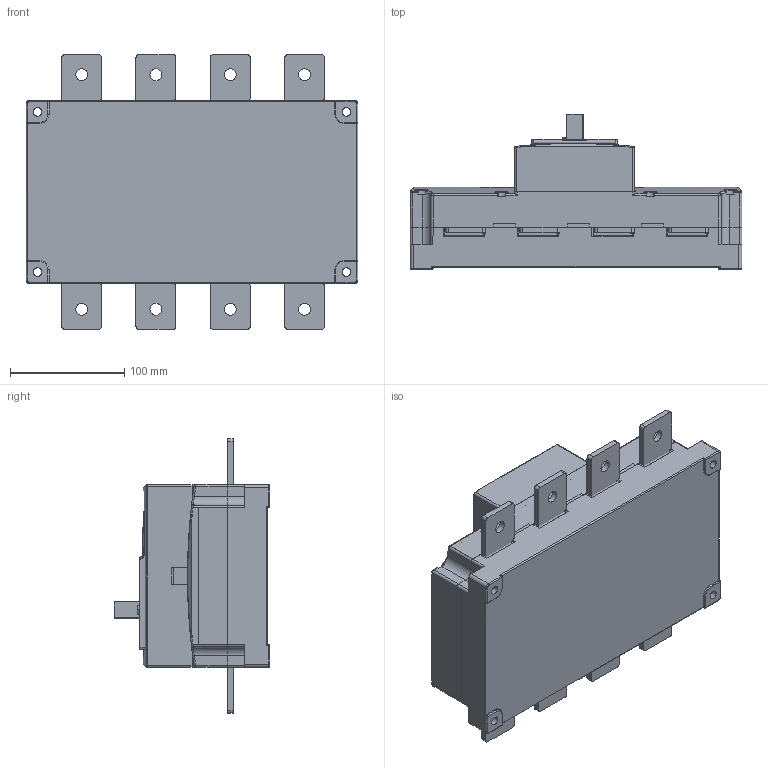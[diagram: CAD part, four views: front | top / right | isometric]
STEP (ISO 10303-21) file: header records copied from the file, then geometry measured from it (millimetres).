
FILE_DESCRIPTION((''),'2;1');
FILE_NAME('NH40-400-4_ASM','2018-05-15T',('zhuanghy'),(''),'PRO/ENGINEER BY PARAMETRIC TECHNOLOGY CORPORATION, 2008380','PRO/ENGINEER BY PARAMETRIC TECHNOLOGY CORPORATION, 2008380','');
FILE_SCHEMA(('CONFIG_CONTROL_DESIGN'));
Length unit declared in the file: millimetre
Products named in the file (7): PRT0049; PRT0050; PRT0051; PRT0052; PRT0053; ASM0011_ASM; NH40-400-4_ASM
Assembly tree (13 placements, depth 3):
  NH40-400-4_ASM
    ASM0011_ASM
      PRT0049
      PRT0050
      PRT0051
      PRT0052
      PRT0053  x8
Bounding box: 290 x 136 x 240 mm (x, y, z)
Volume: 4244659.5 mm3; surface area: 433159 mm2
Topology: 12 solids, 13 shells, 1088 faces, 2838 edges, 1781 vertices
Faces by surface type: cylinder 451, plane 401, bspline 106, torus 105, sphere 17, cone 8
Entity records: 42522 total; most frequent: CARTESIAN_POINT 20075, ORIENTED_EDGE 4812, DIRECTION 4496, EDGE_CURVE 2406, AXIS2_PLACEMENT_3D 1648, VERTEX_POINT 1501, VECTOR 1200, LINE 1200
